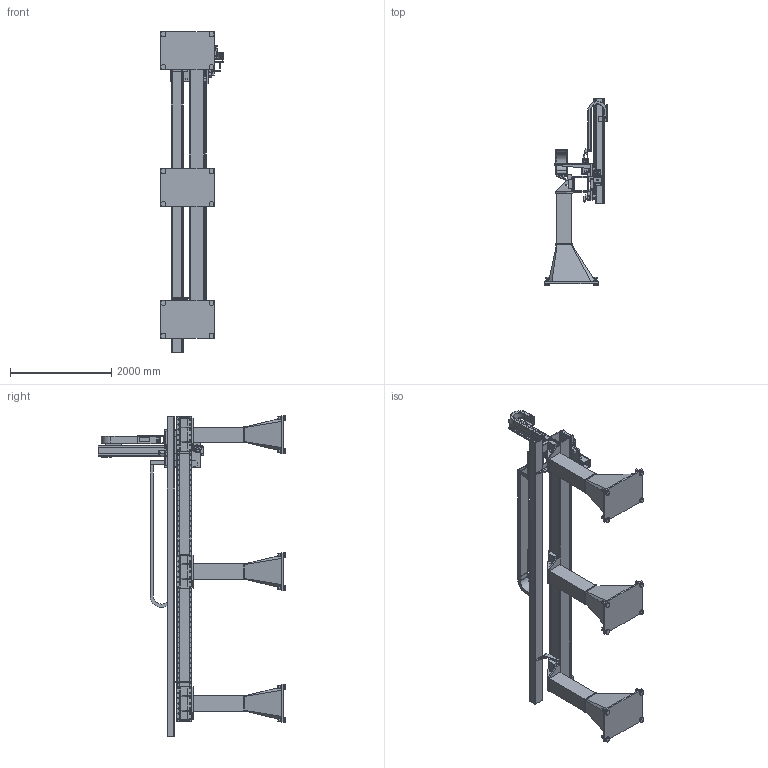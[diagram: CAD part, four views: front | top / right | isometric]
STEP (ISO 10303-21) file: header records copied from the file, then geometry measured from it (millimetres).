
FILE_DESCRIPTION (( 'STEP AP203' ), '1' );
FILE_NAME ('10-00000615-001.STEP', '2019-11-01T06:11:12', ( '' ), ( '' ), 'SwSTEP 2.0', 'SolidWorks 2017', '' );
FILE_SCHEMA (( 'CONFIG_CONTROL_DESIGN' ));
Length unit declared in the file: millimetre
Products named in the file (17): 10-00000615-015_.; 10-00000615-004_.; 10-00000615-014_.; 10-00000615-020_.__asm; 10-00000615-013___mid; 10-00000615-021_.; 10-00000615-008_.; 10-00000615-005_.; 10-00000615-016_.; 10-00000615-001; 10-00000615-012_.; 10-00000615-011_.; 10-00000615-009_.; 10-00000615-010_.; 10-00000615-017_.; 10-00000615-006_.
Assembly tree (21 placements, depth 4):
  10-00000615-001
    10-00000615-011_.
    10-00000615-010_.  x2
    10-00000615-006_.  x2
    10-00000615-016_.
      10-00000615-004_.
        10-00000615-004_.
        10-00000615-020_.__asm  x2
      10-00000615-008_.
    10-00000615-017_.
      10-00000615-012_.
      10-00000615-009_.
    10-00000615-013___mid  x3
      10-00000615-015_.
      10-00000615-014_.
    10-00000615-021_.
    10-00000615-005_.
Bounding box: 1229.1 x 3697.5 x 6325 mm (x, y, z)
Volume: 266703028.4 mm3; surface area: 52808534.4 mm2
Topology: 20 solids, 54 shells, 3753 faces, 9486 edges, 5995 vertices
Faces by surface type: plane 1863, cylinder 1536, cone 346, torus 8
Entity records: 68032 total; most frequent: CARTESIAN_POINT 13374, DIRECTION 11007, ORIENTED_EDGE 10772, EDGE_CURVE 5396, AXIS2_PLACEMENT_3D 3866, VERTEX_POINT 3483, VECTOR 3275, LINE 3275
